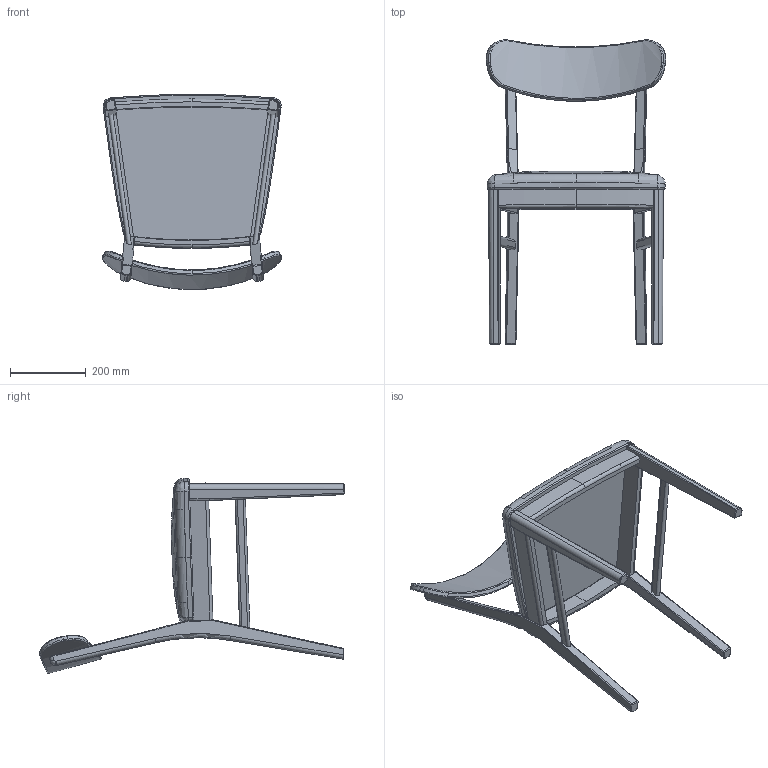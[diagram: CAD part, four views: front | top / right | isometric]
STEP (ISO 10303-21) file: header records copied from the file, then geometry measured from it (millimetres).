
FILE_DESCRIPTION (( 'STEP AP214' ), '1' );
FILE_NAME ('V僠僃傾乕CG.STEP', '2026-03-30T06:18:37', ( '' ), ( '' ), 'SwSTEP 2.0', 'SolidWorks 2025', '' );
FILE_SCHEMA (( 'AUTOMOTIVE_DESIGN' ));
Length unit declared in the file: millimetre
Products named in the file (1): VチェアーCG
Bounding box: 474.96 x 805.95 x 516.21 mm (x, y, z)
Volume: 11843020.8 mm3; surface area: 1037997.3 mm2
Topology: 12 solids, 12 shells, 306 faces, 717 edges, 429 vertices
Faces by surface type: cylinder 99, plane 94, bspline 56, torus 47, cone 10
Entity records: 12564 total; most frequent: CARTESIAN_POINT 5990, ORIENTED_EDGE 1418, DIRECTION 1263, EDGE_CURVE 709, AXIS2_PLACEMENT_3D 494, VERTEX_POINT 429, EDGE_LOOP 308, ADVANCED_FACE 306
